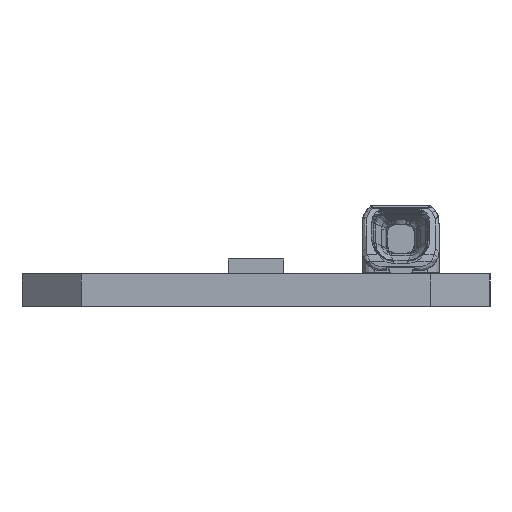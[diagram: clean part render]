
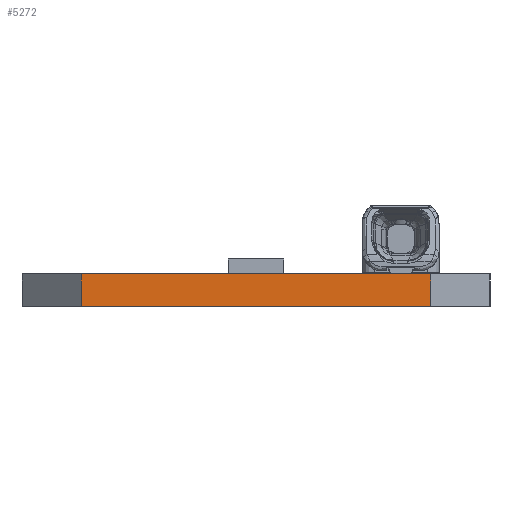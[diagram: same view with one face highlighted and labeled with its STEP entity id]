
A CAD part, left-side view. The second image highlights one B-rep face of the part: STEP entity #5272.
In plain terms, the highlighted planar face has unit normal (-1, 0, 0).
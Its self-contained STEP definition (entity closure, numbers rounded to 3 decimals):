
#1014=DIRECTION('',(0.,1.,0.));
#1015=VECTOR('',#1014,17.6);
#1016=CARTESIAN_POINT('',(-279.5,-8.8,0.));
#1017=LINE('',#1016,#1015);
#1324=DIRECTION('',(0.,0.,1.));
#1325=VECTOR('',#1324,1.65);
#1326=CARTESIAN_POINT('',(-279.5,8.8,0.));
#1327=LINE('',#1326,#1325);
#1328=DIRECTION('',(0.,-1.,0.));
#1329=VECTOR('',#1328,17.6);
#1330=CARTESIAN_POINT('',(-279.5,8.8,1.65));
#1331=LINE('',#1330,#1329);
#1332=DIRECTION('',(0.,0.,1.));
#1333=VECTOR('',#1332,1.65);
#1334=CARTESIAN_POINT('',(-279.5,-8.8,0.));
#1335=LINE('',#1334,#1333);
#3282=CARTESIAN_POINT('',(-279.5,-8.8,1.65));
#3283=VERTEX_POINT('',#3282);
#3284=CARTESIAN_POINT('',(-279.5,8.8,1.65));
#3285=VERTEX_POINT('',#3284);
#3382=CARTESIAN_POINT('',(-279.5,8.8,0.));
#3383=VERTEX_POINT('',#3382);
#3384=CARTESIAN_POINT('',(-279.5,-8.8,0.));
#3385=VERTEX_POINT('',#3384);
#5260=CARTESIAN_POINT('',(-279.5,0.,0.825));
#5261=DIRECTION('',(1.,0.,0.));
#5262=DIRECTION('',(0.,0.,1.));
#5263=AXIS2_PLACEMENT_3D('',#5260,#5261,#5262);
#5264=PLANE('',#5263);
#5266=ORIENTED_EDGE('',*,*,#5265,.F.);
#5267=ORIENTED_EDGE('',*,*,#4924,.T.);
#5268=ORIENTED_EDGE('',*,*,#5252,.T.);
#5269=ORIENTED_EDGE('',*,*,#4254,.T.);
#5270=EDGE_LOOP('',(#5266,#5267,#5268,#5269));
#5271=FACE_OUTER_BOUND('',#5270,.F.);
#5272=ADVANCED_FACE('',(#5271),#5264,.F.);
#4254=EDGE_CURVE('',#3285,#3283,#1331,.T.);
#4924=EDGE_CURVE('',#3385,#3383,#1017,.T.);
#5252=EDGE_CURVE('',#3383,#3285,#1327,.T.);
#5265=EDGE_CURVE('',#3385,#3283,#1335,.T.);
